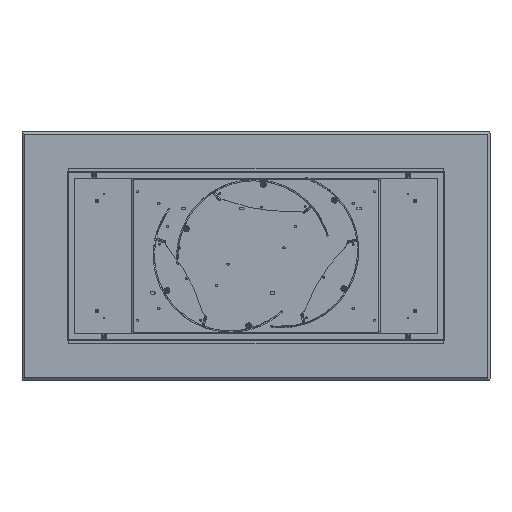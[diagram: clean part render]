
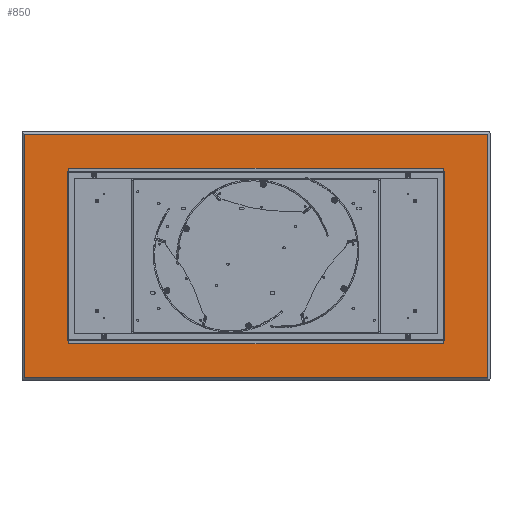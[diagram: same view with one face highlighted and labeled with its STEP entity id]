
A CAD part, front view. The second image highlights one B-rep face of the part: STEP entity #850.
In plain terms, the highlighted planar face has unit normal (0, -1, 0).
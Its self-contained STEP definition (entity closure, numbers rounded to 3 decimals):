
#114 = FACE_BOUND ( 'NONE', #23159, .T. ) ;
#178 = CARTESIAN_POINT ( 'NONE',  ( 680., 0., 235. ) ) ;
#261 = CARTESIAN_POINT ( 'NONE',  ( 990., 0., -520. ) ) ;
#295 = LINE ( 'NONE', #23371, #18258 ) ;
#337 = CARTESIAN_POINT ( 'NONE',  ( -990., 0., 520. ) ) ;
#795 = EDGE_LOOP ( 'NONE', ( #1570, #7879, #9123, #18092 ) ) ;
#850 = ADVANCED_FACE ( 'NONE', ( #114, #7439, #11502, #3643, #11883 ), #3888, .F. ) ;
#997 = CARTESIAN_POINT ( 'NONE',  ( 990., 0., 0. ) ) ;
#1231 = EDGE_CURVE ( 'NONE', #3768, #3798, #21066, .T. ) ;
#1515 = VERTEX_POINT ( 'NONE', #3182 ) ;
#1570 = ORIENTED_EDGE ( 'NONE', *, *, #10311, .T. ) ;
#1639 = DIRECTION ( 'NONE',  ( 0., -1., 0. ) ) ;
#2337 = VERTEX_POINT ( 'NONE', #21788 ) ;
#2349 = EDGE_CURVE ( 'NONE', #5633, #9224, #13378, .T. ) ;
#2376 = CARTESIAN_POINT ( 'NONE',  ( 680., 0., -235. ) ) ;
#2417 = CARTESIAN_POINT ( 'NONE',  ( 680., 0., -235. ) ) ;
#2470 = VECTOR ( 'NONE', #8668, 1000. ) ;
#2905 = EDGE_CURVE ( 'NONE', #1515, #9640, #18937, .T. ) ;
#3182 = CARTESIAN_POINT ( 'NONE',  ( -990., 0., -520. ) ) ;
#3555 = EDGE_LOOP ( 'NONE', ( #18252, #18277 ) ) ;
#3600 = EDGE_CURVE ( 'NONE', #12095, #20832, #19531, .T. ) ;
#3643 = FACE_BOUND ( 'NONE', #3555, .T. ) ;
#3768 = VERTEX_POINT ( 'NONE', #8322 ) ;
#3798 = VERTEX_POINT ( 'NONE', #22914 ) ;
#3888 = PLANE ( 'NONE',  #20114 ) ;
#4142 = VERTEX_POINT ( 'NONE', #8303 ) ;
#4224 = CIRCLE ( 'NONE', #18392, 2.5 ) ;
#5269 = AXIS2_PLACEMENT_3D ( 'NONE', #8445, #16174, #23950 ) ;
#5512 = CARTESIAN_POINT ( 'NONE',  ( 680., 0., -237.5 ) ) ;
#5555 = DIRECTION ( 'NONE',  ( 0., 0., -1. ) ) ;
#5633 = VERTEX_POINT ( 'NONE', #22062 ) ;
#5908 = CARTESIAN_POINT ( 'NONE',  ( 0., 0., 0. ) ) ;
#6011 = CIRCLE ( 'NONE', #18570, 2.5 ) ;
#6218 = CARTESIAN_POINT ( 'NONE',  ( -680., 0., 235. ) ) ;
#6267 = EDGE_CURVE ( 'NONE', #2337, #4142, #6011, .T. ) ;
#7421 = DIRECTION ( 'NONE',  ( 0., 0., -1. ) ) ;
#7439 = FACE_BOUND ( 'NONE', #13159, .T. ) ;
#7813 = DIRECTION ( 'NONE',  ( 0., 1., 0. ) ) ;
#7838 = AXIS2_PLACEMENT_3D ( 'NONE', #17170, #21017, #7421 ) ;
#7879 = ORIENTED_EDGE ( 'NONE', *, *, #2905, .T. ) ;
#7888 = VERTEX_POINT ( 'NONE', #337 ) ;
#8218 = CARTESIAN_POINT ( 'NONE',  ( 680., 0., -232.5 ) ) ;
#8303 = CARTESIAN_POINT ( 'NONE',  ( -680., 0., 237.5 ) ) ;
#8322 = CARTESIAN_POINT ( 'NONE',  ( 680., 0., 237.5 ) ) ;
#8445 = CARTESIAN_POINT ( 'NONE',  ( -680., 0., -235. ) ) ;
#8668 = DIRECTION ( 'NONE',  ( 1., 0., 0. ) ) ;
#9038 = VERTEX_POINT ( 'NONE', #21331 ) ;
#9123 = ORIENTED_EDGE ( 'NONE', *, *, #11097, .T. ) ;
#9224 = VERTEX_POINT ( 'NONE', #24001 ) ;
#9240 = CARTESIAN_POINT ( 'NONE',  ( -680., 0., 235. ) ) ;
#9292 = AXIS2_PLACEMENT_3D ( 'NONE', #178, #13720, #11833 ) ;
#9527 = AXIS2_PLACEMENT_3D ( 'NONE', #2417, #16094, #23616 ) ;
#9640 = VERTEX_POINT ( 'NONE', #261 ) ;
#9779 = DIRECTION ( 'NONE',  ( 0., 0., -1. ) ) ;
#10311 = EDGE_CURVE ( 'NONE', #7888, #1515, #295, .T. ) ;
#10355 = DIRECTION ( 'NONE',  ( -1., 0., 0. ) ) ;
#10738 = CIRCLE ( 'NONE', #9527, 2.5 ) ;
#11097 = EDGE_CURVE ( 'NONE', #9640, #9038, #22678, .T. ) ;
#11502 = FACE_BOUND ( 'NONE', #12314, .T. ) ;
#11830 = DIRECTION ( 'NONE',  ( 0., -1., 0. ) ) ;
#11833 = DIRECTION ( 'NONE',  ( 0., 0., -1. ) ) ;
#11883 = FACE_OUTER_BOUND ( 'NONE', #795, .T. ) ;
#12095 = VERTEX_POINT ( 'NONE', #8218 ) ;
#12314 = EDGE_LOOP ( 'NONE', ( #17022, #12873 ) ) ;
#12873 = ORIENTED_EDGE ( 'NONE', *, *, #13017, .F. ) ;
#13017 = EDGE_CURVE ( 'NONE', #4142, #2337, #20077, .T. ) ;
#13159 = EDGE_LOOP ( 'NONE', ( #22835, #16416 ) ) ;
#13358 = EDGE_CURVE ( 'NONE', #9038, #7888, #14148, .T. ) ;
#13378 = CIRCLE ( 'NONE', #5269, 2.5 ) ;
#13522 = EDGE_CURVE ( 'NONE', #3798, #3768, #4224, .T. ) ;
#13720 = DIRECTION ( 'NONE',  ( 0., -1., 0. ) ) ;
#13958 = DIRECTION ( 'NONE',  ( 0., 0., -1. ) ) ;
#14146 = EDGE_CURVE ( 'NONE', #20832, #12095, #10738, .T. ) ;
#14148 = LINE ( 'NONE', #21926, #15960 ) ;
#15177 = AXIS2_PLACEMENT_3D ( 'NONE', #9240, #1639, #5555 ) ;
#15960 = VECTOR ( 'NONE', #10355, 1000. ) ;
#16094 = DIRECTION ( 'NONE',  ( 0., -1., 0. ) ) ;
#16174 = DIRECTION ( 'NONE',  ( 0., -1., 0. ) ) ;
#16416 = ORIENTED_EDGE ( 'NONE', *, *, #2349, .F. ) ;
#16928 = DIRECTION ( 'NONE',  ( 0., -1., 0. ) ) ;
#17022 = ORIENTED_EDGE ( 'NONE', *, *, #6267, .F. ) ;
#17059 = AXIS2_PLACEMENT_3D ( 'NONE', #2376, #21418, #21665 ) ;
#17170 = CARTESIAN_POINT ( 'NONE',  ( -680., 0., -235. ) ) ;
#17640 = ORIENTED_EDGE ( 'NONE', *, *, #3600, .F. ) ;
#18076 = ORIENTED_EDGE ( 'NONE', *, *, #14146, .F. ) ;
#18092 = ORIENTED_EDGE ( 'NONE', *, *, #13358, .T. ) ;
#18252 = ORIENTED_EDGE ( 'NONE', *, *, #13522, .F. ) ;
#18258 = VECTOR ( 'NONE', #9779, 1000. ) ;
#18277 = ORIENTED_EDGE ( 'NONE', *, *, #1231, .F. ) ;
#18392 = AXIS2_PLACEMENT_3D ( 'NONE', #20892, #16928, #24710 ) ;
#18570 = AXIS2_PLACEMENT_3D ( 'NONE', #6218, #11830, #13958 ) ;
#18936 = VECTOR ( 'NONE', #20278, 1000. ) ;
#18937 = LINE ( 'NONE', #20479, #2470 ) ;
#19200 = CIRCLE ( 'NONE', #7838, 2.5 ) ;
#19531 = CIRCLE ( 'NONE', #17059, 2.5 ) ;
#20077 = CIRCLE ( 'NONE', #15177, 2.5 ) ;
#20114 = AXIS2_PLACEMENT_3D ( 'NONE', #5908, #7813, #21406 ) ;
#20278 = DIRECTION ( 'NONE',  ( 0., 0., 1. ) ) ;
#20479 = CARTESIAN_POINT ( 'NONE',  ( 0., 0., -520. ) ) ;
#20832 = VERTEX_POINT ( 'NONE', #5512 ) ;
#20892 = CARTESIAN_POINT ( 'NONE',  ( 680., 0., 235. ) ) ;
#21017 = DIRECTION ( 'NONE',  ( 0., -1., 0. ) ) ;
#21066 = CIRCLE ( 'NONE', #9292, 2.5 ) ;
#21331 = CARTESIAN_POINT ( 'NONE',  ( 990., 0., 520. ) ) ;
#21406 = DIRECTION ( 'NONE',  ( 0., 0., 1. ) ) ;
#21418 = DIRECTION ( 'NONE',  ( 0., -1., 0. ) ) ;
#21665 = DIRECTION ( 'NONE',  ( 0., 0., -1. ) ) ;
#21788 = CARTESIAN_POINT ( 'NONE',  ( -680., 0., 232.5 ) ) ;
#21926 = CARTESIAN_POINT ( 'NONE',  ( 0., 0., 520. ) ) ;
#22062 = CARTESIAN_POINT ( 'NONE',  ( -680., 0., -232.5 ) ) ;
#22678 = LINE ( 'NONE', #997, #18936 ) ;
#22835 = ORIENTED_EDGE ( 'NONE', *, *, #25017, .F. ) ;
#22914 = CARTESIAN_POINT ( 'NONE',  ( 680., 0., 232.5 ) ) ;
#23159 = EDGE_LOOP ( 'NONE', ( #18076, #17640 ) ) ;
#23371 = CARTESIAN_POINT ( 'NONE',  ( -990., 0., 0. ) ) ;
#23616 = DIRECTION ( 'NONE',  ( 0., 0., -1. ) ) ;
#23950 = DIRECTION ( 'NONE',  ( 0., 0., -1. ) ) ;
#24001 = CARTESIAN_POINT ( 'NONE',  ( -680., 0., -237.5 ) ) ;
#24710 = DIRECTION ( 'NONE',  ( 0., 0., -1. ) ) ;
#25017 = EDGE_CURVE ( 'NONE', #9224, #5633, #19200, .T. ) ;
